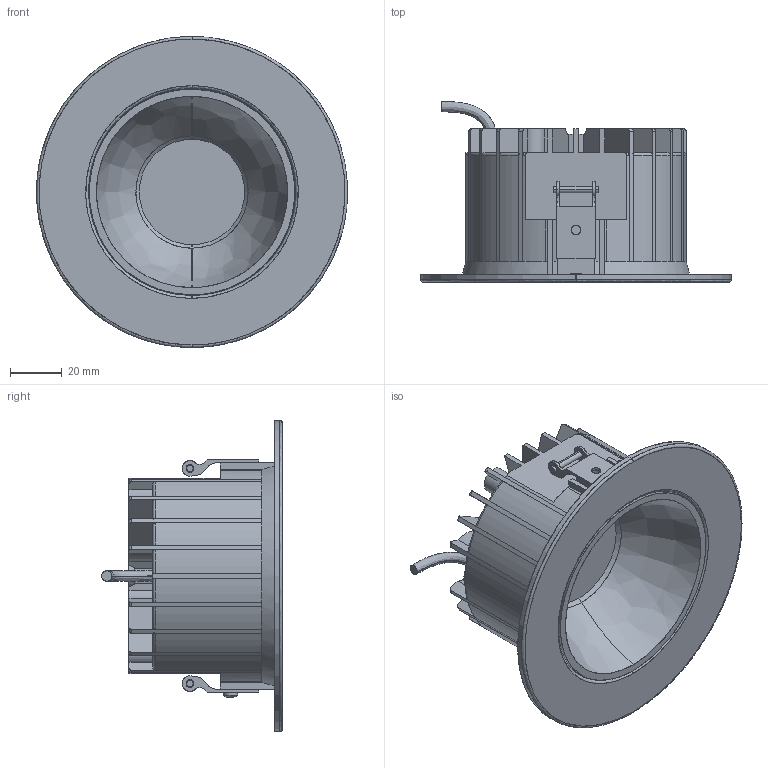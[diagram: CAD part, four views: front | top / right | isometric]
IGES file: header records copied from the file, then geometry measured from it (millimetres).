
Start section: SolidWorks IGES file using analytic representation for surfaces
Global section: file name: F:\GABRYSIA\MODELE 3D\OPRAWY\CL-KEA-LED-8773-WWW\CL-KEA-LED-8773.IGS; native system: SolidWorks 2017; preprocessor: SolidWorks 2017; author: Togambi; date: 200907.105330; units: millimetre
Bounding box: 120 x 69.76 x 120 mm (x, y, z)
Surface area: 81548.1 mm2 (no closed solid volume)
Topology: 0 solids, 0 shells, 576 faces, 6229 edges, 6227 vertices
Faces by surface type: bspline 368, revolution 208
